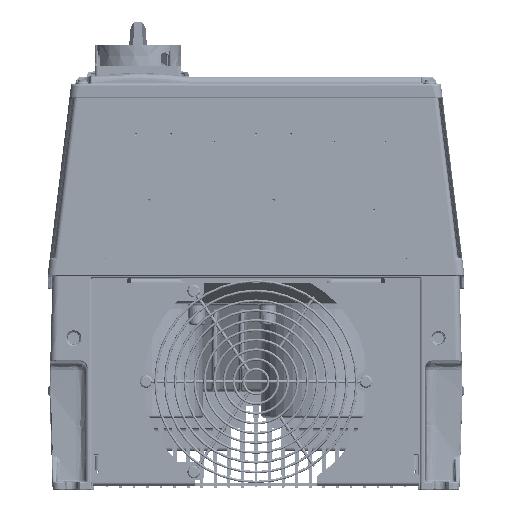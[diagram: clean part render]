
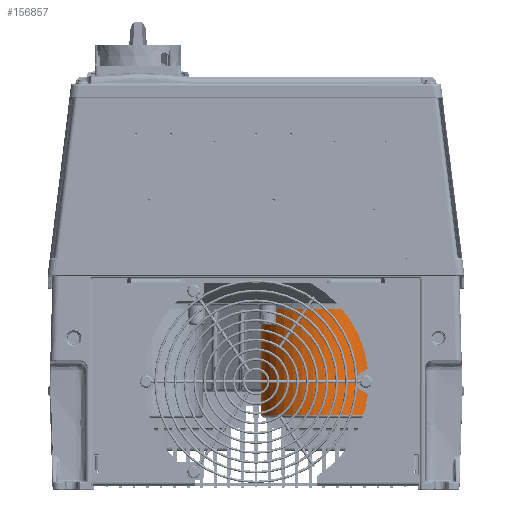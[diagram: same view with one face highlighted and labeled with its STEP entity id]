
A CAD part, front view. The second image highlights one B-rep face of the part: STEP entity #156857.
In plain terms, the highlighted cylindrical face has radius 46.1 mm (diameter 92.2 mm), a partial arc.
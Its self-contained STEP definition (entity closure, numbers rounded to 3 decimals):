
#28398=CARTESIAN_POINT('',(50.,-201.5,-104.813));
#28399=DIRECTION('',(0.,0.,1.));
#28400=DIRECTION('',(-1.,0.,0.));
#28401=AXIS2_PLACEMENT_3D('',#28398,#28399,#28400);
#28403=CARTESIAN_POINT('',(50.,-201.5,-26.2));
#28404=DIRECTION('',(0.,0.,-1.));
#28405=DIRECTION('',(0.,-1.,0.));
#28406=AXIS2_PLACEMENT_3D('',#28403,#28404,#28405);
#28408=CARTESIAN_POINT('',(50.,-201.5,-26.2));
#28409=DIRECTION('',(0.,0.,-1.));
#28410=DIRECTION('',(1.,0.,0.));
#28411=AXIS2_PLACEMENT_3D('',#28408,#28409,#28410);
#28413=DIRECTION('',(0.,0.,-1.));
#28414=VECTOR('',#28413,78.613);
#28415=CARTESIAN_POINT('',(96.1,-201.5,-26.2));
#28416=LINE('',#28415,#28414);
#28442=DIRECTION('',(0.,0.,-1.));
#28443=VECTOR('',#28442,78.613);
#28444=CARTESIAN_POINT('',(3.9,-201.5,-26.2));
#28445=LINE('',#28444,#28443);
#104865=CARTESIAN_POINT('',(96.1,-201.5,-26.2));
#104866=CARTESIAN_POINT('',(50.,-247.6,-26.2));
#104867=VERTEX_POINT('',#104865);
#104868=VERTEX_POINT('',#104866);
#104869=CARTESIAN_POINT('',(3.9,-201.5,-26.2));
#104870=VERTEX_POINT('',#104869);
#104891=CARTESIAN_POINT('',(96.1,-201.5,-104.813));
#104892=CARTESIAN_POINT('',(3.9,-201.5,-104.813));
#104893=VERTEX_POINT('',#104891);
#104894=VERTEX_POINT('',#104892);
#156841=CARTESIAN_POINT('',(50.,-201.5,3.));
#156842=DIRECTION('',(0.,0.,-1.));
#156843=DIRECTION('',(1.,0.,0.));
#156844=AXIS2_PLACEMENT_3D('',#156841,#156842,#156843);
#156845=CYLINDRICAL_SURFACE('',#156844,46.1);
#156847=ORIENTED_EDGE('',*,*,#156846,.F.);
#156849=ORIENTED_EDGE('',*,*,#156848,.F.);
#156851=ORIENTED_EDGE('',*,*,#156850,.F.);
#156852=ORIENTED_EDGE('',*,*,#156829,.F.);
#156854=ORIENTED_EDGE('',*,*,#156853,.T.);
#156855=EDGE_LOOP('',(#156847,#156849,#156851,#156852,#156854));
#156856=FACE_OUTER_BOUND('',#156855,.F.);
#28402=CIRCLE('',#28401,46.1);
#28407=CIRCLE('',#28406,46.1);
#28412=CIRCLE('',#28411,46.1);
#156829=EDGE_CURVE('',#104867,#104868,#28412,.T.);
#156846=EDGE_CURVE('',#104894,#104893,#28402,.T.);
#156848=EDGE_CURVE('',#104870,#104894,#28445,.T.);
#156850=EDGE_CURVE('',#104868,#104870,#28407,.T.);
#156853=EDGE_CURVE('',#104867,#104893,#28416,.T.);
#156857=ADVANCED_FACE('',(#156856),#156845,.T.);
